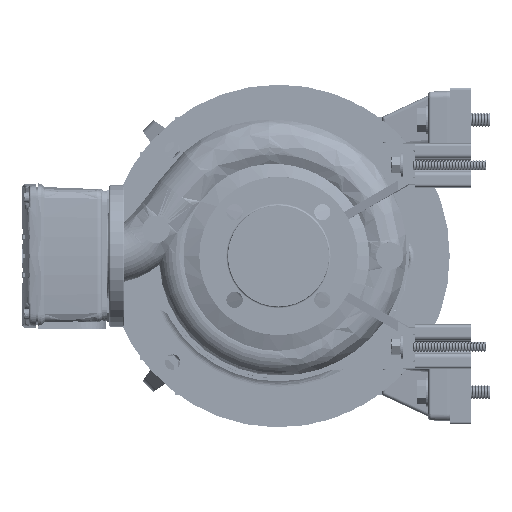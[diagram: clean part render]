
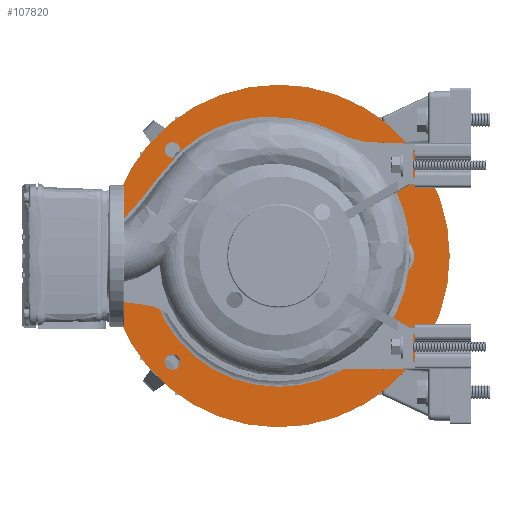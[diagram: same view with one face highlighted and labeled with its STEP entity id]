
A CAD part, left-side view. The second image highlights one B-rep face of the part: STEP entity #107820.
In plain terms, the highlighted planar face has unit normal (-1, 0, 0).
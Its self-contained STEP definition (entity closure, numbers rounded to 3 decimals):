
#3701 = VERTEX_POINT ( 'NONE', #205229 ) ;
#11365 = DIRECTION ( 'NONE',  ( 1., 0., 0. ) ) ;
#11544 = CARTESIAN_POINT ( 'NONE',  ( 438.01, 388.817, 1173.321 ) ) ;
#13589 = CARTESIAN_POINT ( 'NONE',  ( 438.01, 636.305, 916.834 ) ) ;
#14546 = DIRECTION ( 'NONE',  ( 0., 0., 1. ) ) ;
#15989 = VERTEX_POINT ( 'NONE', #136112 ) ;
#16910 = DIRECTION ( 'NONE',  ( 0., 0., 1. ) ) ;
#19147 = DIRECTION ( 'NONE',  ( 0., 0., 1. ) ) ;
#20632 = DIRECTION ( 'NONE',  ( 1., 0., 0. ) ) ;
#21620 = CARTESIAN_POINT ( 'NONE',  ( 438.01, 512.561, 896.898 ) ) ;
#21640 = DIRECTION ( 'NONE',  ( 0., 0., 1. ) ) ;
#23954 = VERTEX_POINT ( 'NONE', #21620 ) ;
#31206 = DIRECTION ( 'NONE',  ( 0., 0., 1. ) ) ;
#31762 = CIRCLE ( 'NONE', #50452, 9. ) ;
#32089 = FACE_OUTER_BOUND ( 'NONE', #65277, .T. ) ;
#33519 = FACE_BOUND ( 'NONE', #147179, .T. ) ;
#36379 = FACE_BOUND ( 'NONE', #138695, .T. ) ;
#42012 = DIRECTION ( 'NONE',  ( 1., 0., 0. ) ) ;
#46319 = VERTEX_POINT ( 'NONE', #176818 ) ;
#47760 = DIRECTION ( 'NONE',  ( 1., 0., 0. ) ) ;
#47766 = CIRCLE ( 'NONE', #247538, 9. ) ;
#49709 = CIRCLE ( 'NONE', #105571, 23.5 ) ;
#50266 = CIRCLE ( 'NONE', #212868, 152.679 ) ;
#50452 = AXIS2_PLACEMENT_3D ( 'NONE', #117123, #119975, #31206 ) ;
#55352 = CIRCLE ( 'NONE', #250357, 9. ) ;
#60443 = EDGE_LOOP ( 'NONE', ( #163686, #125499 ) ) ;
#60989 = EDGE_CURVE ( 'NONE', #206564, #46319, #184436, .T. ) ;
#65277 = EDGE_LOOP ( 'NONE', ( #160035, #65863 ) ) ;
#65538 = DIRECTION ( 'NONE',  ( 1., 0., 0. ) ) ;
#65863 = ORIENTED_EDGE ( 'NONE', *, *, #93483, .F. ) ;
#72154 = VERTEX_POINT ( 'NONE', #77423 ) ;
#75197 = CIRCLE ( 'NONE', #270408, 200. ) ;
#76965 = ORIENTED_EDGE ( 'NONE', *, *, #167701, .T. ) ;
#77423 = CARTESIAN_POINT ( 'NONE',  ( 438.01, 512.561, 849.577 ) ) ;
#80057 = DIRECTION ( 'NONE',  ( -1., 0., 0. ) ) ;
#83064 = CIRCLE ( 'NONE', #250206, 200. ) ;
#83188 = DIRECTION ( 'NONE',  ( 0., 0., -1. ) ) ;
#88664 = CIRCLE ( 'NONE', #251231, 9. ) ;
#93483 = EDGE_CURVE ( 'NONE', #3701, #72154, #75197, .T. ) ;
#94625 = EDGE_CURVE ( 'NONE', #142347, #15989, #47766, .T. ) ;
#99035 = FACE_BOUND ( 'NONE', #176836, .T. ) ;
#99836 = ORIENTED_EDGE ( 'NONE', *, *, #259063, .T. ) ;
#102162 = AXIS2_PLACEMENT_3D ( 'NONE', #110393, #47760, #83188 ) ;
#102378 = AXIS2_PLACEMENT_3D ( 'NONE', #122685, #236045, #143074 ) ;
#103306 = FACE_BOUND ( 'NONE', #107155, .T. ) ;
#105571 = AXIS2_PLACEMENT_3D ( 'NONE', #279477, #208256, #125285 ) ;
#106214 = VERTEX_POINT ( 'NONE', #178689 ) ;
#107155 = EDGE_LOOP ( 'NONE', ( #154249, #193327 ) ) ;
#107691 = DIRECTION ( 'NONE',  ( 0., 0., 1. ) ) ;
#107820 = ADVANCED_FACE ( 'NONE', ( #32089, #120864, #99035, #33519, #103306, #36379 ), #174588, .T. ) ;
#109028 = EDGE_CURVE ( 'NONE', #215369, #106214, #202072, .T. ) ;
#109452 = VERTEX_POINT ( 'NONE', #251577 ) ;
#110393 = CARTESIAN_POINT ( 'NONE',  ( 438.01, 512.561, 1049.577 ) ) ;
#117123 = CARTESIAN_POINT ( 'NONE',  ( 438.01, 636.305, 1173.321 ) ) ;
#117698 = EDGE_CURVE ( 'NONE', #106214, #215369, #55352, .T. ) ;
#119975 = DIRECTION ( 'NONE',  ( 1., 0., 0. ) ) ;
#120864 = FACE_BOUND ( 'NONE', #60443, .T. ) ;
#122685 = CARTESIAN_POINT ( 'NONE',  ( 438.01, 636.305, 1173.321 ) ) ;
#123602 = DIRECTION ( 'NONE',  ( 0., 0., 1. ) ) ;
#125285 = DIRECTION ( 'NONE',  ( 0., 0., 1. ) ) ;
#125499 = ORIENTED_EDGE ( 'NONE', *, *, #117698, .T. ) ;
#130212 = CARTESIAN_POINT ( 'NONE',  ( 438.01, 636.305, 925.834 ) ) ;
#131225 = CARTESIAN_POINT ( 'NONE',  ( 438.01, 512.561, 1049.577 ) ) ;
#131635 = DIRECTION ( 'NONE',  ( 1., 0., 0. ) ) ;
#132492 = AXIS2_PLACEMENT_3D ( 'NONE', #130212, #131635, #218903 ) ;
#135612 = CARTESIAN_POINT ( 'NONE',  ( 438.01, 388.817, 1164.321 ) ) ;
#136112 = CARTESIAN_POINT ( 'NONE',  ( 438.01, 388.817, 1182.321 ) ) ;
#138695 = EDGE_LOOP ( 'NONE', ( #280100, #188866, #160610, #76965 ) ) ;
#142347 = VERTEX_POINT ( 'NONE', #135612 ) ;
#143074 = DIRECTION ( 'NONE',  ( 0., 0., 1. ) ) ;
#145218 = DIRECTION ( 'NONE',  ( 0., 0., -1. ) ) ;
#147179 = EDGE_LOOP ( 'NONE', ( #284593, #197630 ) ) ;
#152609 = CARTESIAN_POINT ( 'NONE',  ( 438.01, 636.305, 925.834 ) ) ;
#152790 = DIRECTION ( 'NONE',  ( 1., 0., 0. ) ) ;
#154249 = ORIENTED_EDGE ( 'NONE', *, *, #209281, .T. ) ;
#160035 = ORIENTED_EDGE ( 'NONE', *, *, #206077, .F. ) ;
#160610 = ORIENTED_EDGE ( 'NONE', *, *, #179713, .T. ) ;
#163353 = CARTESIAN_POINT ( 'NONE',  ( 438.01, 360.769, 1033.139 ) ) ;
#163686 = ORIENTED_EDGE ( 'NONE', *, *, #109028, .T. ) ;
#167701 = EDGE_CURVE ( 'NONE', #189671, #286237, #49709, .T. ) ;
#169399 = AXIS2_PLACEMENT_3D ( 'NONE', #210032, #227534, #275515 ) ;
#174588 = PLANE ( 'NONE',  #228264 ) ;
#175573 = ORIENTED_EDGE ( 'NONE', *, *, #220309, .T. ) ;
#176172 = CARTESIAN_POINT ( 'NONE',  ( 438.01, 512.561, 1049.577 ) ) ;
#176818 = CARTESIAN_POINT ( 'NONE',  ( 438.01, 388.817, 916.834 ) ) ;
#176836 = EDGE_LOOP ( 'NONE', ( #99836, #175573 ) ) ;
#178689 = CARTESIAN_POINT ( 'NONE',  ( 438.01, 636.305, 934.834 ) ) ;
#179713 = EDGE_CURVE ( 'NONE', #192411, #189671, #220424, .T. ) ;
#184436 = CIRCLE ( 'NONE', #198312, 9. ) ;
#187412 = CARTESIAN_POINT ( 'NONE',  ( 438.01, 360.769, 1066.016 ) ) ;
#188866 = ORIENTED_EDGE ( 'NONE', *, *, #193824, .T. ) ;
#189068 = DIRECTION ( 'NONE',  ( 1., 0., 0. ) ) ;
#189671 = VERTEX_POINT ( 'NONE', #187412 ) ;
#190633 = CARTESIAN_POINT ( 'NONE',  ( 438.01, 712.561, 1049.577 ) ) ;
#192411 = VERTEX_POINT ( 'NONE', #284333 ) ;
#193327 = ORIENTED_EDGE ( 'NONE', *, *, #60989, .T. ) ;
#193824 = EDGE_CURVE ( 'NONE', #23954, #192411, #50266, .T. ) ;
#194399 = CARTESIAN_POINT ( 'NONE',  ( 438.01, 388.817, 925.834 ) ) ;
#196638 = DIRECTION ( 'NONE',  ( 1., 0., 0. ) ) ;
#197630 = ORIENTED_EDGE ( 'NONE', *, *, #260484, .T. ) ;
#198312 = AXIS2_PLACEMENT_3D ( 'NONE', #194399, #261304, #16910 ) ;
#202072 = CIRCLE ( 'NONE', #132492, 9. ) ;
#205229 = CARTESIAN_POINT ( 'NONE',  ( 438.01, 512.561, 1249.577 ) ) ;
#206077 = EDGE_CURVE ( 'NONE', #72154, #3701, #83064, .T. ) ;
#206564 = VERTEX_POINT ( 'NONE', #216052 ) ;
#206875 = CARTESIAN_POINT ( 'NONE',  ( 438.01, 636.305, 1164.321 ) ) ;
#208256 = DIRECTION ( 'NONE',  ( 1., 0., 0. ) ) ;
#209281 = EDGE_CURVE ( 'NONE', #46319, #206564, #88664, .T. ) ;
#210032 = CARTESIAN_POINT ( 'NONE',  ( 438.01, 512.561, 1049.577 ) ) ;
#212868 = AXIS2_PLACEMENT_3D ( 'NONE', #176172, #65538, #283831 ) ;
#213449 = AXIS2_PLACEMENT_3D ( 'NONE', #11544, #189068, #123602 ) ;
#215369 = VERTEX_POINT ( 'NONE', #13589 ) ;
#215552 = CARTESIAN_POINT ( 'NONE',  ( 438.01, 388.817, 1173.321 ) ) ;
#216052 = CARTESIAN_POINT ( 'NONE',  ( 438.01, 388.817, 934.834 ) ) ;
#218450 = CIRCLE ( 'NONE', #102378, 9. ) ;
#218903 = DIRECTION ( 'NONE',  ( 0., 0., 1. ) ) ;
#220309 = EDGE_CURVE ( 'NONE', #109452, #281592, #218450, .T. ) ;
#220424 = CIRCLE ( 'NONE', #169399, 152.679 ) ;
#222789 = CIRCLE ( 'NONE', #213449, 9. ) ;
#223962 = CARTESIAN_POINT ( 'NONE',  ( 438.01, 388.817, 925.834 ) ) ;
#227534 = DIRECTION ( 'NONE',  ( 1., 0., 0. ) ) ;
#227583 = CIRCLE ( 'NONE', #102162, 152.679 ) ;
#228264 = AXIS2_PLACEMENT_3D ( 'NONE', #190633, #80057, #14546 ) ;
#236045 = DIRECTION ( 'NONE',  ( 1., 0., 0. ) ) ;
#245842 = EDGE_CURVE ( 'NONE', #286237, #23954, #227583, .T. ) ;
#247538 = AXIS2_PLACEMENT_3D ( 'NONE', #215552, #196638, #19147 ) ;
#250206 = AXIS2_PLACEMENT_3D ( 'NONE', #254340, #11365, #145218 ) ;
#250357 = AXIS2_PLACEMENT_3D ( 'NONE', #152609, #42012, #21640 ) ;
#251231 = AXIS2_PLACEMENT_3D ( 'NONE', #223962, #152790, #107691 ) ;
#251577 = CARTESIAN_POINT ( 'NONE',  ( 438.01, 636.305, 1182.321 ) ) ;
#254340 = CARTESIAN_POINT ( 'NONE',  ( 438.01, 512.561, 1049.577 ) ) ;
#259063 = EDGE_CURVE ( 'NONE', #281592, #109452, #31762, .T. ) ;
#260484 = EDGE_CURVE ( 'NONE', #15989, #142347, #222789, .T. ) ;
#261304 = DIRECTION ( 'NONE',  ( 1., 0., 0. ) ) ;
#262163 = DIRECTION ( 'NONE',  ( 0., 0., -1. ) ) ;
#270408 = AXIS2_PLACEMENT_3D ( 'NONE', #131225, #20632, #262163 ) ;
#275515 = DIRECTION ( 'NONE',  ( 0., 0., -1. ) ) ;
#279477 = CARTESIAN_POINT ( 'NONE',  ( 438.01, 377.563, 1049.577 ) ) ;
#280100 = ORIENTED_EDGE ( 'NONE', *, *, #245842, .T. ) ;
#281592 = VERTEX_POINT ( 'NONE', #206875 ) ;
#283831 = DIRECTION ( 'NONE',  ( 0., 0., -1. ) ) ;
#284333 = CARTESIAN_POINT ( 'NONE',  ( 438.01, 512.561, 1202.257 ) ) ;
#284593 = ORIENTED_EDGE ( 'NONE', *, *, #94625, .T. ) ;
#286237 = VERTEX_POINT ( 'NONE', #163353 ) ;
